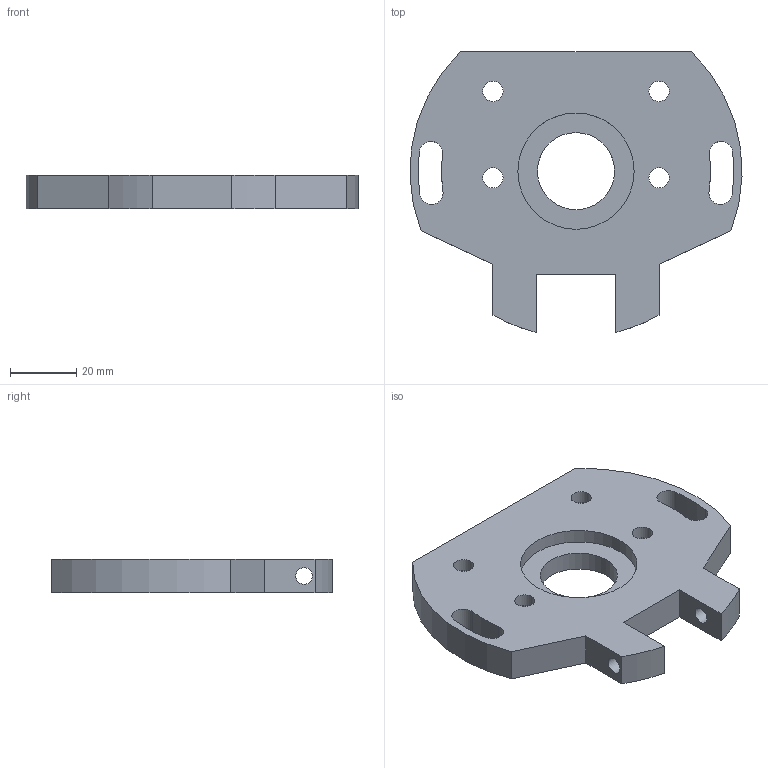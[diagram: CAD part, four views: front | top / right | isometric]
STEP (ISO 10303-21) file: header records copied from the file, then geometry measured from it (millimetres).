
FILE_DESCRIPTION(/* description */ ('STEP AP242','CAx-IF Rec.Pracs.---Representation and Presentation of Product Manufacturing Information (PMI)---4.0---2014-10-13','CAx-IF Rec.Pracs.---3D Tessellated Geometry---0.4---2014-09-14','2;1'),/* implementation_level */ '2;1');
FILE_NAME(/* name */ '67517114fb67772fa30a9666',/* time_stamp */ '2024-12-05T09:23:35Z',/* author */ (''),/* organization */ (''),/* preprocessor_version */ 'ST-DEVELOPER v20',/* originating_system */ 'ONSHAPE BY PTC INC, 1.190',/* authorisation */ ' ');
FILE_SCHEMA (('AP242_MANAGED_MODEL_BASED_3D_ENGINEERING_MIM_LF { 1 0 10303 442 1 1 4 }'));
Length unit declared in the file: metre
Products named in the file (1): C14 - Base Az
Bounding box: 99.94 x 84.54 x 10 mm (x, y, z)
Volume: 50521.6 mm3; surface area: 17806 mm2
Topology: 1 solids, 1 shells, 39 faces, 102 edges, 70 vertices
Faces by surface type: cylinder 24, plane 15
Full cylindrical faces by diameter (mm): 5 x2, 6.1 x4, 11.25 x4, 23.2 x1, 35 x1
Entity records: 1176 total; most frequent: DIRECTION 212, CARTESIAN_POINT 188, ORIENTED_EDGE 168, AXIS2_PLACEMENT_3D 88, EDGE_CURVE 84, EDGE_LOOP 74, FACE_BOUND 74, VERTEX_POINT 64
